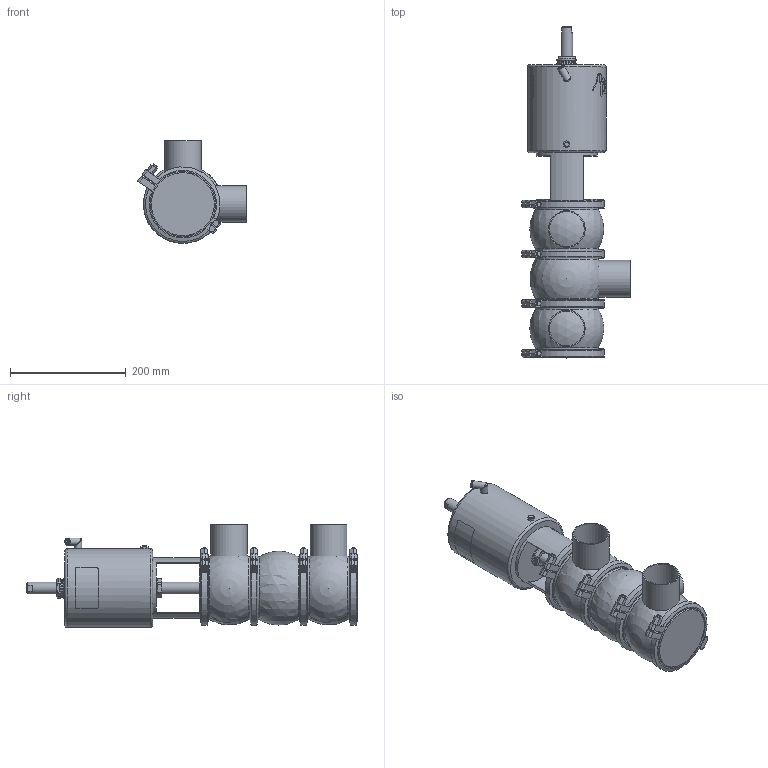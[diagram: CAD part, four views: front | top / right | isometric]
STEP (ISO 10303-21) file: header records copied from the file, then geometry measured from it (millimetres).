
FILE_DESCRIPTION (( 'STEP AP214' ), '1' );
FILE_NAME ('INNOVA L J W OD 2½ T3 AS NC_10.241.16.0013.STEP', '2024-08-07T07:50:45', ( '' ), ( '' ), 'SwSTEP 2.0', 'SolidWorks 2023', '' );
FILE_SCHEMA (( 'AUTOMOTIVE_DESIGN' ));
Length unit declared in the file: millimetre
Products named in the file (6): 10.240.15.0010_DN 065; 10.240.15.0006_OD 2½"; 10.240.15.0001_DN 065; 10.240.15.0014_T3 AS P180; 10.241.15.0001_DIN 065; INNOVA L J W OD 2½ T3 AS NC_10.241.16.0013
Assembly tree (10 placements, depth 2):
  INNOVA L J W OD 2½ T3 AS NC_10.241.16.0013
    10.240.15.0006_OD 2½"  x3
    10.240.15.0010_DN 065
    10.240.15.0014_T3 AS P180
    10.240.15.0001_DN 065  x4
    10.241.15.0001_DIN 065
Bounding box: 188.15 x 574.5 x 178 mm (x, y, z)
Volume: 5630873.1 mm3; surface area: 522386.7 mm2
Topology: 11 solids, 11 shells, 532 faces, 1400 edges, 911 vertices
Faces by surface type: plane 260, cylinder 136, bspline 80, cone 46, sphere 6, torus 4
Full cylindrical faces by diameter (mm): 6.15 x1, 8 x9, 8.5 x1, 10.5 x1, 12.5 x3, 16 x1, 20 x2, 31 x1, 34.5 x2, 36.5 x1, 60.2 x3, 63.5 x3, 105 x1, 109 x7, 121 x8, 136 x1
Entity records: 20396 total; most frequent: CARTESIAN_POINT 11273, ORIENTED_EDGE 1592, DIRECTION 1209, EDGE_CURVE 796, VERTEX_POINT 547, AXIS2_PLACEMENT_3D 460, EDGE_LOOP 399, FACE_OUTER_BOUND 360
